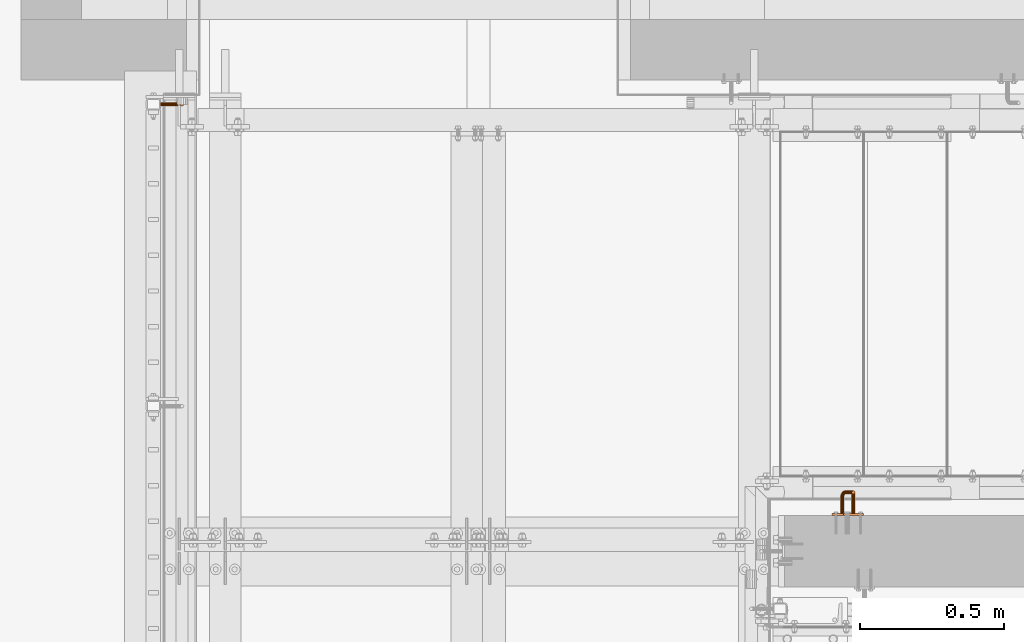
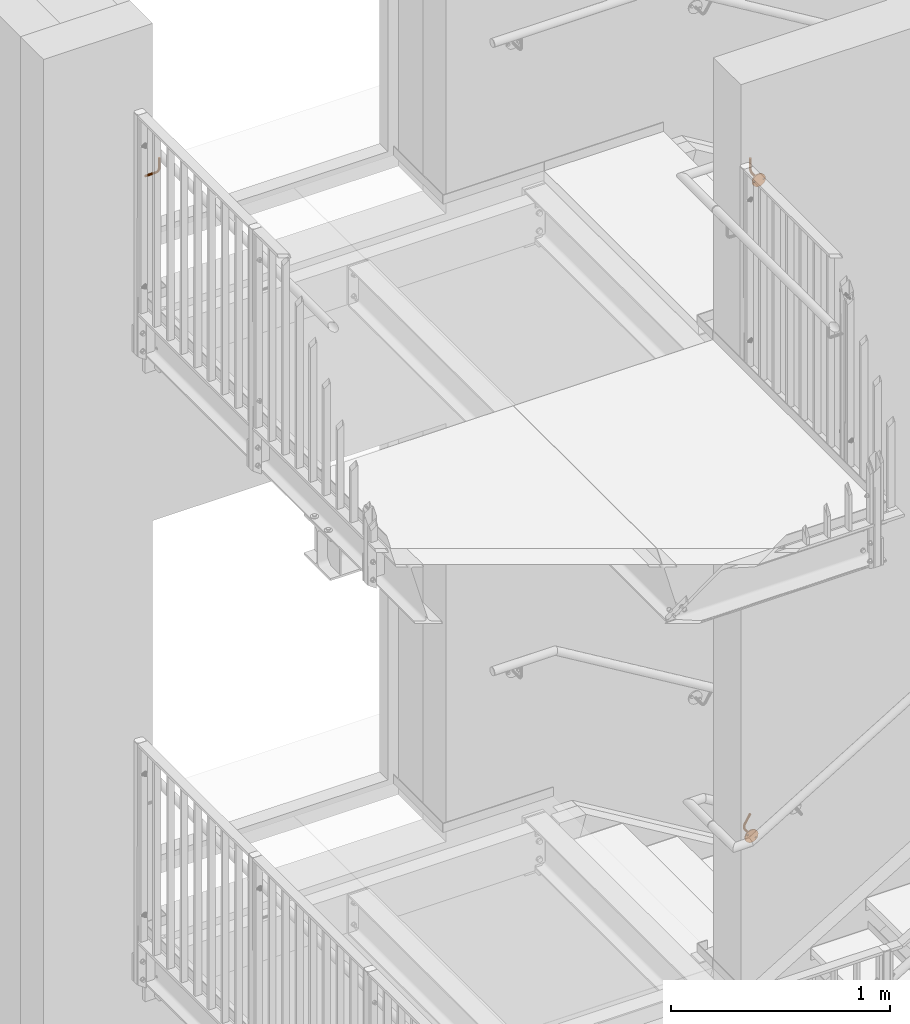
# One storey, part 377 of 410: 3 proxies.
"""IFC2X3 building model written with IfcOpenShell, lengths in millimetres."""

from ifc_helpers import new_model, entity, si_unit, converted_unit, origin_with_axes, place, context, project, spatial, faceted_brep, element, save


model = new_model("IFC2X3")

# Units and contexts
model_context = context("Model", 3, precision=1e-09, world=origin_with_axes())
ifc_project = project(units=[si_unit("LENGTHUNIT", "METRE", prefix="MILLI"), si_unit("AREAUNIT", "SQUARE_METRE"), si_unit("VOLUMEUNIT", "CUBIC_METRE"), converted_unit("PLANEANGLEUNIT", "DEGREE", entity("IfcPlaneAngleMeasure", 0.01745329), si_unit("PLANEANGLEUNIT", "RADIAN"), dimensions=[0, 0, 0, 0, 0, 0, 0])], contexts=[model_context])

# Site, building, storey
site_placement = place(None, origin_with_axes())
site = spatial("IfcSite", under=ifc_project, at=site_placement, Name="mKR Teilneubau & Sanierung BA1 - Ostfildern", CompositionType="ELEMENT")
building_placement = place(site_placement, origin_with_axes())
building = spatial("IfcBuilding", under=site, at=building_placement, Name="Struktur 1", CompositionType="ELEMENT")
storey_placement = place(building_placement, origin_with_axes())
storey = spatial("IfcBuildingStorey", under=building, at=storey_placement, Name="Default Storey", CompositionType="ELEMENT", Elevation=0.0)

# Proxies
proxy_1_placement = place(None, origin_with_axes())
element("IfcBuildingElementProxy", 1, at=proxy_1_placement, inside=storey, ObjectType="-", context=model_context, shape_type="Brep", body=[
    faceted_brep([(-3817.9485317, 18534.999999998, 8238.6), (-3874.9485317, 18534.999999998, 8238.6), (-3874.9485317, 18531.999999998, 8237.796152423), (-3817.9485317, 18531.999999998, 8237.796152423), (-3874.9485317, 18540.19615242, 8229.6), (-3874.9485317, 18537.999999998, 8227.403847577), (-3874.9485317, 18534.999999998, 8226.6), (-3874.9485317, 18531.999999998, 8227.403847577), (-3874.9485317, 18529.803847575, 8229.6), (-3874.9485317, 18528.999999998, 8232.6), (-3874.9485317, 18529.803847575, 8235.6), (-3874.9485317, 18537.999999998, 8237.796152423), (-3874.9485317, 18540.19615242, 8235.6), (-3874.9485317, 18540.999999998, 8232.6), (-3817.9485317, 18537.999999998, 8237.796152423), (-3813.048711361, 18531.999999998, 8238.770787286), (-3813.356330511, 18534.999999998, 8239.51344561), (-3817.9485317, 18529.803847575, 8235.6), (-3813.048711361, 18537.999999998, 8238.770787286), (-3809.463250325, 18534.999999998, 8242.114718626), (-3808.894844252, 18537.999999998, 8241.546312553), (-3808.894844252, 18531.999999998, 8241.546312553), (-3812.208280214, 18529.803847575, 8236.741807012), (-3817.9485317, 18540.19615242, 8235.6), (-3806.861977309, 18534.999999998, 8246.007798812), (-3806.119318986, 18537.999999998, 8245.700179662), (-3805.144684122, 18537.999999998, 8250.6), (-3805.144684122, 18537.999999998, 8307.6), (-3802.9485317, 18540.19615242, 8307.6), (-3802.9485317, 18540.19615242, 8250.6), (-3805.9485317, 18534.999999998, 8250.6), (-3805.9485317, 18534.999999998, 8307.6), (-3817.9485317, 18528.999999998, 8232.6), (-3804.090338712, 18540.19615242, 8244.859748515), (-3812.208280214, 18540.19615242, 8236.741807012), (-3807.341929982, 18540.19615242, 8239.993398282), (-3796.9485317, 18529.803847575, 8307.6), (-3794.752379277, 18531.999999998, 8307.6), (-3793.9485317, 18534.999999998, 8307.6), (-3794.752379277, 18537.999999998, 8307.6), (-3796.9485317, 18540.19615242, 8307.6), (-3799.9485317, 18540.999999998, 8307.6), (-3805.144684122, 18531.999999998, 8307.6), (-3802.9485317, 18529.803847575, 8307.6), (-3799.9485317, 18528.999999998, 8307.6), (-3806.119318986, 18531.999999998, 8245.700179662), (-3811.060229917, 18528.999999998, 8233.970168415), (-3807.341929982, 18529.803847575, 8239.993398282), (-3817.9485317, 18540.999999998, 8232.6), (-3799.9485317, 18540.999999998, 8250.6), (-3805.144684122, 18531.999999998, 8250.6), (-3817.9485317, 18529.803847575, 8229.6), (-3801.318700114, 18540.999999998, 8243.711698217), (-3811.060229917, 18540.999999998, 8233.970168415), (-3805.220609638, 18540.999999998, 8237.872077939), (-3804.090338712, 18529.803847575, 8244.859748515), (-3809.91217962, 18529.803847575, 8231.198529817), (-3805.220609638, 18528.999999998, 8237.872077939), (-3817.9485317, 18531.999999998, 8227.403847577), (-3817.9485317, 18534.999999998, 8226.6), (-3817.9485317, 18537.999999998, 8227.403847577), (-3817.9485317, 18540.19615242, 8229.6), (-3796.9485317, 18540.19615242, 8250.6), (-3802.9485317, 18529.803847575, 8250.6), (-3798.547061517, 18540.19615242, 8242.56364792), (-3809.91217962, 18540.19615242, 8231.198529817), (-3803.099289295, 18540.19615242, 8235.750757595), (-3801.318700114, 18528.999999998, 8243.711698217), (-3809.071748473, 18531.999999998, 8229.169549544), (-3803.099289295, 18529.803847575, 8235.750757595), (-3808.764129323, 18534.999999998, 8228.42689122), (-3809.071748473, 18537.999999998, 8229.169549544), (-3794.752379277, 18537.999999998, 8250.6), (-3799.9485317, 18528.999999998, 8250.6), (-3796.518081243, 18537.999999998, 8241.723216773), (-3801.546375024, 18537.999999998, 8234.197843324), (-3798.547061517, 18529.803847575, 8242.56364792), (-3801.546375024, 18531.999999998, 8234.197843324), (-3793.9485317, 18534.999999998, 8250.6), (-3800.977968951, 18534.999999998, 8233.629437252), (-3796.9485317, 18529.803847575, 8250.6), (-3795.775422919, 18534.999999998, 8241.415597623), (-3796.518081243, 18531.999999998, 8241.723216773), (-3794.752379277, 18531.999999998, 8250.6)], [[[0, 1, 2, 3]], [[4, 5, 6, 7, 8, 9, 10, 2, 1, 11, 12, 13]], [[1, 0, 14, 11]], [[0, 3, 15, 16]], [[3, 2, 10, 17]], [[16, 18, 14, 0]], [[19, 20, 18, 16]], [[16, 15, 21, 19]], [[3, 17, 22, 15]], [[11, 14, 23, 12]], [[20, 19, 24, 25]], [[26, 27, 28, 29]], [[27, 26, 30, 31]], [[17, 10, 9, 32]], [[26, 29, 33, 25]], [[18, 34, 23, 14]], [[20, 35, 34, 18]], [[25, 33, 35, 20]], [[36, 37, 38, 39, 40, 41, 28, 27, 31, 42, 43, 44]], [[25, 24, 30, 26]], [[19, 21, 45, 24]], [[17, 32, 46, 22]], [[15, 22, 47, 21]], [[12, 23, 48, 13]], [[29, 28, 41, 49]], [[31, 30, 50, 42]], [[32, 9, 8, 51]], [[29, 49, 52, 33]], [[34, 53, 48, 23]], [[35, 54, 53, 34]], [[33, 52, 54, 35]], [[24, 45, 50, 30]], [[21, 47, 55, 45]], [[32, 51, 56, 46]], [[22, 46, 57, 47]], [[7, 58, 51, 8]], [[6, 59, 58, 7]], [[5, 60, 59, 6]], [[4, 61, 60, 5]], [[13, 48, 61, 4]], [[49, 41, 40, 62]], [[42, 50, 63, 43]], [[49, 62, 64, 52]], [[53, 65, 61, 48]], [[54, 66, 65, 53]], [[52, 64, 66, 54]], [[45, 55, 63, 50]], [[47, 57, 67, 55]], [[51, 58, 68, 56]], [[46, 56, 69, 57]], [[58, 59, 70, 68]], [[59, 60, 71, 70]], [[60, 61, 65, 71]], [[62, 40, 39, 72]], [[43, 63, 73, 44]], [[62, 72, 74, 64]], [[66, 75, 71, 65]], [[64, 74, 75, 66]], [[55, 67, 73, 63]], [[57, 69, 76, 67]], [[56, 68, 77, 69]], [[72, 39, 38, 78]], [[68, 70, 79, 77]], [[70, 71, 75, 79]], [[44, 73, 80, 36]], [[72, 78, 81, 74]], [[74, 81, 79, 75]], [[67, 76, 80, 73]], [[69, 77, 82, 76]], [[78, 38, 37, 83]], [[77, 79, 81, 82]], [[36, 80, 83, 37]], [[78, 83, 82, 81]], [[76, 82, 83, 80]]]),
])
proxy_2_placement = place(None, origin_with_axes())
element("IfcBuildingElementProxy", 2, at=proxy_2_placement, inside=storey, ObjectType="-", context=model_context, shape_type="Brep", body=[
    faceted_brep([(-1493.680607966, 17111.0, 8234.72389397), (-1493.680607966, 17105.0, 8234.72389397), (-1494.25, 17105.0, 8232.59889397), (-1494.25, 17111.0, 8232.59889397), (-1456.40800795, 17111.0, 8266.527903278), (-1445.856814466, 17111.0, 8261.899720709), (-1437.380082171, 17111.0, 8254.096338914), (-1431.896396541, 17111.0, 8243.963375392), (-1430.0, 17111.0, 8232.59889397), (-1431.896396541, 17111.0, 8221.234412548), (-1437.380082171, 17111.0, 8211.101449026), (-1445.856814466, 17111.0, 8203.298067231), (-1456.40800795, 17111.0, 8198.669884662), (-1467.890277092, 17111.0, 8197.718436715), (-1479.059339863, 17111.0, 8200.546827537), (-1488.704855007, 17111.0, 8206.848557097), (-1495.781581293, 17111.0, 8215.940735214), (-1499.522645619, 17111.0, 8226.83808331), (-1499.522645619, 17111.0, 8238.35970463), (-1495.781581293, 17111.0, 8249.257052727), (-1488.704855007, 17111.0, 8258.349230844), (-1479.059339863, 17111.0, 8264.650960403), (-1467.890277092, 17111.0, 8267.479351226), (-1493.680607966, 17111.0, 8230.47389397), (-1492.125, 17111.0, 8228.918286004), (-1490.0, 17111.0, 8228.34889397), (-1487.875, 17111.0, 8228.918286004), (-1486.319392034, 17111.0, 8230.47389397), (-1485.75, 17111.0, 8232.59889397), (-1486.319392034, 17111.0, 8234.72389397), (-1487.875, 17111.0, 8236.279501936), (-1490.0, 17111.0, 8236.84889397), (-1492.125, 17111.0, 8236.279501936), (-1443.680607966, 17111.0, 8234.72389397), (-1444.25, 17111.0, 8232.59889397), (-1443.680607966, 17111.0, 8230.47389397), (-1442.125, 17111.0, 8228.918286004), (-1440.0, 17111.0, 8228.34889397), (-1437.875, 17111.0, 8228.918286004), (-1436.319392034, 17111.0, 8230.47389397), (-1435.75, 17111.0, 8232.59889397), (-1436.319392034, 17111.0, 8234.72389397), (-1437.875, 17111.0, 8236.279501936), (-1440.0, 17111.0, 8236.84889397), (-1442.125, 17111.0, 8236.279501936), (-1492.125, 17105.0, 8236.279501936), (-1456.40800795, 17105.0, 8198.669884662), (-1445.856814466, 17105.0, 8203.298067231), (-1437.380082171, 17105.0, 8211.101449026), (-1431.896396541, 17105.0, 8221.234412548), (-1430.0, 17105.0, 8232.59889397), (-1431.896396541, 17105.0, 8243.963375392), (-1437.380082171, 17105.0, 8254.096338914), (-1445.856814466, 17105.0, 8261.899720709), (-1456.40800795, 17105.0, 8266.527903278), (-1467.890277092, 17105.0, 8267.479351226), (-1479.059339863, 17105.0, 8264.650960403), (-1488.704855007, 17105.0, 8258.349230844), (-1495.781581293, 17105.0, 8249.257052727), (-1499.522645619, 17105.0, 8238.35970463), (-1499.522645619, 17105.0, 8226.83808331), (-1495.781581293, 17105.0, 8215.940735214), (-1488.704855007, 17105.0, 8206.848557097), (-1479.059339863, 17105.0, 8200.546827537), (-1467.890277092, 17105.0, 8197.718436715), (-1443.680607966, 17105.0, 8230.47389397), (-1444.25, 17105.0, 8232.59889397), (-1443.680607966, 17105.0, 8234.72389397), (-1442.125, 17105.0, 8236.279501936), (-1440.0, 17105.0, 8236.84889397), (-1437.875, 17105.0, 8236.279501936), (-1436.319392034, 17105.0, 8234.72389397), (-1435.75, 17105.0, 8232.59889397), (-1436.319392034, 17105.0, 8230.47389397), (-1437.875, 17105.0, 8228.918286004), (-1440.0, 17105.0, 8228.34889397), (-1442.125, 17105.0, 8228.918286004), (-1490.0, 17105.0, 8236.84889397), (-1487.875, 17105.0, 8236.279501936), (-1486.319392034, 17105.0, 8234.72389397), (-1485.75, 17105.0, 8232.59889397), (-1486.319392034, 17105.0, 8230.47389397), (-1487.875, 17105.0, 8228.918286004), (-1490.0, 17105.0, 8228.34889397), (-1492.125, 17105.0, 8228.918286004), (-1493.680607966, 17105.0, 8230.47389397)], [[[0, 1, 2, 3]], [[4, 5, 6, 7, 8, 9, 10, 11, 12, 13, 14, 15, 16, 17, 18, 19, 20, 21, 22], [3, 23, 24, 25, 26, 27, 28, 29, 30, 31, 32, 0], [33, 34, 35, 36, 37, 38, 39, 40, 41, 42, 43, 44]], [[1, 0, 32, 45]], [[46, 47, 48, 49, 50, 51, 52, 53, 54, 55, 56, 57, 58, 59, 60, 61, 62, 63, 64], [65, 66, 67, 68, 69, 70, 71, 72, 73, 74, 75, 76], [1, 45, 77, 78, 79, 80, 81, 82, 83, 84, 85, 2]], [[3, 2, 85, 23]], [[59, 18, 17, 60]], [[23, 85, 84, 24]], [[45, 32, 31, 77]], [[18, 59, 58, 19]], [[24, 84, 83, 25]], [[60, 17, 16, 61]], [[77, 31, 30, 78]], [[57, 20, 19, 58]], [[25, 83, 82, 26]], [[20, 57, 56, 21]], [[15, 62, 61, 16]], [[78, 30, 29, 79]], [[62, 15, 14, 63]], [[26, 82, 81, 27]], [[79, 29, 28, 80]], [[21, 56, 55, 22]], [[27, 81, 80, 28]], [[63, 14, 13, 64]], [[22, 55, 54, 4]], [[66, 34, 33, 67]], [[64, 13, 12, 46]], [[34, 66, 65, 35]], [[67, 33, 44, 68]], [[4, 54, 53, 5]], [[46, 12, 11, 47]], [[35, 65, 76, 36]], [[68, 44, 43, 69]], [[5, 53, 52, 6]], [[47, 11, 10, 48]], [[36, 76, 75, 37]], [[69, 43, 42, 70]], [[6, 52, 51, 7]], [[48, 10, 9, 49]], [[37, 75, 74, 38]], [[50, 8, 7, 51]], [[70, 42, 41, 71]], [[8, 50, 49, 9]], [[38, 74, 73, 39]], [[71, 41, 40, 72]], [[39, 73, 72, 40]]]),
    faceted_brep([(-1459.0, 17111.0, 8232.59889397), (-1459.0, 17167.0, 8232.59889397), (-1459.803847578, 17167.0, 8235.59889397), (-1459.803847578, 17111.0, 8235.59889397), (-1459.803847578, 17188.0, 8307.59889397), (-1459.803847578, 17188.0, 8250.59889397), (-1462.0, 17190.196152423, 8250.59889397), (-1462.0, 17190.196152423, 8307.59889397), (-1459.0, 17185.0, 8307.59889397), (-1459.0, 17185.0, 8250.59889397), (-1459.803847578, 17186.401470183, 8242.562541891), (-1462.0, 17188.430450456, 8241.722110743), (-1470.196152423, 17111.0, 8229.59889397), (-1468.0, 17111.0, 8227.402741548), (-1465.0, 17111.0, 8226.59889397), (-1462.0, 17111.0, 8227.402741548), (-1459.803847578, 17111.0, 8229.59889397), (-1462.0, 17111.0, 8237.795046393), (-1465.0, 17111.0, 8238.59889397), (-1468.0, 17111.0, 8237.795046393), (-1470.196152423, 17111.0, 8235.59889397), (-1471.0, 17111.0, 8232.59889397), (-1459.803847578, 17167.0, 8229.59889397), (-1459.0, 17173.888301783, 8233.969062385), (-1459.803847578, 17172.740251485, 8236.740700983), (-1470.196152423, 17182.0, 8307.59889397), (-1468.0, 17179.803847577, 8307.59889397), (-1465.0, 17179.0, 8307.59889397), (-1462.0, 17179.803847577, 8307.59889397), (-1459.803847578, 17182.0, 8307.59889397), (-1465.0, 17191.0, 8307.59889397), (-1468.0, 17190.196152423, 8307.59889397), (-1470.196152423, 17188.0, 8307.59889397), (-1471.0, 17185.0, 8307.59889397), (-1459.0, 17183.629831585, 8243.710592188), (-1459.0, 17179.727922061, 8237.870971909), (-1459.803847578, 17181.849242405, 8235.749651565), (-1462.0, 17167.0, 8237.795046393), (-1459.803847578, 17175.03635208, 8231.197423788), (-1465.0, 17191.0, 8250.59889397), (-1459.803847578, 17182.0, 8250.59889397), (-1465.0, 17189.17310878, 8241.414491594), (-1462.0, 17183.402156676, 8234.196737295), (-1459.803847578, 17177.606601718, 8239.992292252), (-1462.0, 17171.899820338, 8238.769681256), (-1462.0, 17167.0, 8227.402741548), (-1459.803847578, 17180.858192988, 8244.858642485), (-1465.0, 17167.0, 8238.59889397), (-1462.0, 17175.876783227, 8229.168443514), (-1468.0, 17190.196152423, 8250.59889397), (-1462.0, 17179.803847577, 8250.59889397), (-1468.0, 17188.430450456, 8241.722110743), (-1465.0, 17183.970562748, 8233.628331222), (-1462.0, 17176.053687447, 8241.545206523), (-1465.0, 17171.592201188, 8239.51233958), (-1465.0, 17167.0, 8226.59889397), (-1462.0, 17178.829212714, 8245.699073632), (-1470.196152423, 17188.0, 8250.59889397), (-1468.0, 17167.0, 8237.795046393), (-1465.0, 17176.184402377, 8228.42578519), (-1465.0, 17179.0, 8250.59889397), (-1470.196152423, 17186.401470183, 8242.562541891), (-1468.0, 17183.402156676, 8234.196737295), (-1465.0, 17175.485281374, 8242.113612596), (-1468.0, 17171.899820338, 8238.769681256), (-1468.0, 17167.0, 8227.402741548), (-1465.0, 17178.08655439, 8246.006692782), (-1471.0, 17185.0, 8250.59889397), (-1470.196152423, 17167.0, 8235.59889397), (-1468.0, 17175.876783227, 8229.168443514), (-1468.0, 17179.803847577, 8250.59889397), (-1470.196152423, 17182.0, 8250.59889397), (-1471.0, 17183.629831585, 8243.710592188), (-1470.196152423, 17181.849242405, 8235.749651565), (-1468.0, 17176.053687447, 8241.545206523), (-1470.196152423, 17172.740251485, 8236.740700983), (-1471.0, 17167.0, 8232.59889397), (-1470.196152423, 17167.0, 8229.59889397), (-1468.0, 17178.829212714, 8245.699073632), (-1470.196152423, 17175.03635208, 8231.197423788), (-1470.196152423, 17180.858192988, 8244.858642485), (-1471.0, 17179.727922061, 8237.870971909), (-1471.0, 17173.888301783, 8233.969062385), (-1470.196152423, 17177.606601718, 8239.992292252)], [[[0, 1, 2, 3]], [[4, 5, 6, 7]], [[5, 4, 8, 9]], [[6, 5, 10, 11]], [[12, 13, 14, 15, 16, 0, 3, 17, 18, 19, 20, 21]], [[1, 0, 16, 22]], [[2, 1, 23, 24]], [[25, 26, 27, 28, 29, 8, 4, 7, 30, 31, 32, 33]], [[34, 10, 5, 9]], [[35, 36, 10, 34]], [[3, 2, 37, 17]], [[38, 23, 1, 22]], [[36, 35, 23, 38]], [[7, 6, 39, 30]], [[9, 8, 29, 40]], [[39, 6, 11, 41]], [[11, 10, 36, 42]], [[24, 23, 35, 43]], [[37, 2, 24, 44]], [[22, 16, 15, 45]], [[43, 35, 34, 46]], [[46, 34, 9, 40]], [[17, 37, 47, 18]], [[48, 38, 22, 45]], [[42, 36, 38, 48]], [[30, 39, 49, 31]], [[40, 29, 28, 50]], [[49, 39, 41, 51]], [[41, 11, 42, 52]], [[44, 24, 43, 53]], [[47, 37, 44, 54]], [[45, 15, 14, 55]], [[53, 43, 46, 56]], [[56, 46, 40, 50]], [[31, 49, 57, 32]], [[18, 47, 58, 19]], [[59, 48, 45, 55]], [[52, 42, 48, 59]], [[50, 28, 27, 60]], [[57, 49, 51, 61]], [[51, 41, 52, 62]], [[54, 44, 53, 63]], [[58, 47, 54, 64]], [[55, 14, 13, 65]], [[66, 56, 50, 60]], [[63, 53, 56, 66]], [[32, 57, 67, 33]], [[19, 58, 68, 20]], [[69, 59, 55, 65]], [[62, 52, 59, 69]], [[60, 27, 26, 70]], [[71, 25, 33, 67]], [[70, 26, 25, 71]], [[67, 57, 61, 72]], [[61, 51, 62, 73]], [[64, 54, 63, 74]], [[68, 58, 64, 75]], [[76, 21, 20, 68]], [[77, 12, 21, 76]], [[65, 13, 12, 77]], [[78, 66, 60, 70]], [[74, 63, 66, 78]], [[79, 69, 65, 77]], [[73, 62, 69, 79]], [[71, 67, 72, 80]], [[70, 71, 80, 78]], [[72, 61, 73, 81]], [[76, 68, 75, 82]], [[75, 64, 74, 83]], [[77, 76, 82, 79]], [[83, 74, 78, 80]], [[81, 73, 79, 82]], [[80, 72, 81, 83]], [[82, 75, 83, 81]]]),
])
proxy_3_placement = place(None, origin_with_axes())
element("IfcBuildingElementProxy", 3, at=proxy_3_placement, inside=storey, ObjectType="-", context=model_context, shape_type="Brep", body=[
    faceted_brep([(-1527.076769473, 17111.0, 4608.884596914), (-1527.076769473, 17105.0, 4608.884596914), (-1528.657985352, 17105.0, 4607.355025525), (-1528.657985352, 17111.0, 4607.355025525), (-1478.754537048, 17111.0, 4616.990370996), (-1472.086071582, 17111.0, 4607.594663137), (-1468.829703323, 17111.0, 4596.54279345), (-1469.338310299, 17111.0, 4585.032403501), (-1473.556777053, 17111.0, 4574.310822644), (-1481.027967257, 17111.0, 4565.539900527), (-1490.942261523, 17111.0, 4559.670102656), (-1502.225292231, 17111.0, 4557.337512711), (-1513.654367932, 17111.0, 4558.794903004), (-1523.990970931, 17111.0, 4563.884342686), (-1532.114969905, 17111.0, 4572.054311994), (-1537.146003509, 17111.0, 4582.419467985), (-1538.538881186, 17111.0, 4593.856585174), (-1536.142663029, 17111.0, 4605.12627445), (-1530.217016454, 17111.0, 4615.007290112), (-1521.404077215, 17111.0, 4622.428870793), (-1510.658864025, 17111.0, 4626.586773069), (-1499.145787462, 17111.0, 4627.030423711), (-1488.112468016, 17111.0, 4623.711746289), (-1484.196451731, 17111.0, 4583.169263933), (-1485.77766761, 17111.0, 4581.639692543), (-1486.382255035, 17111.0, 4579.524436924), (-1485.848215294, 17111.0, 4577.39027811), (-1484.318643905, 17111.0, 4575.809062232), (-1482.203388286, 17111.0, 4575.204474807), (-1480.069229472, 17111.0, 4575.738514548), (-1478.488013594, 17111.0, 4577.268085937), (-1477.883426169, 17111.0, 4579.383341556), (-1478.417465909, 17111.0, 4581.51750037), (-1479.947037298, 17111.0, 4583.098716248), (-1482.062292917, 17111.0, 4583.703303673), (-1529.262572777, 17111.0, 4605.239769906), (-1528.728533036, 17111.0, 4603.105611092), (-1527.198961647, 17111.0, 4601.524395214), (-1525.083706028, 17111.0, 4600.919807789), (-1522.949547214, 17111.0, 4601.453847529), (-1521.368331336, 17111.0, 4602.983418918), (-1520.76374391, 17111.0, 4605.098674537), (-1521.297783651, 17111.0, 4607.232833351), (-1522.82735504, 17111.0, 4608.81404923), (-1524.942610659, 17111.0, 4609.418636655), (-1524.942610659, 17105.0, 4609.418636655), (-1513.654367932, 17105.0, 4558.794903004), (-1502.225292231, 17105.0, 4557.337512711), (-1490.942261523, 17105.0, 4559.670102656), (-1481.027967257, 17105.0, 4565.539900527), (-1473.556777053, 17105.0, 4574.310822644), (-1469.338310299, 17105.0, 4585.032403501), (-1468.829703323, 17105.0, 4596.54279345), (-1472.086071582, 17105.0, 4607.594663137), (-1478.754537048, 17105.0, 4616.990370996), (-1488.112468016, 17105.0, 4623.711746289), (-1499.145787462, 17105.0, 4627.030423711), (-1510.658864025, 17105.0, 4626.586773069), (-1521.404077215, 17105.0, 4622.428870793), (-1530.217016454, 17105.0, 4615.007290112), (-1536.142663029, 17105.0, 4605.12627445), (-1538.538881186, 17105.0, 4593.856585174), (-1537.146003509, 17105.0, 4582.419467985), (-1532.114969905, 17105.0, 4572.054311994), (-1523.990970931, 17105.0, 4563.884342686), (-1486.382255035, 17105.0, 4579.524436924), (-1485.77766761, 17105.0, 4581.639692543), (-1484.196451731, 17105.0, 4583.169263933), (-1482.062292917, 17105.0, 4583.703303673), (-1479.947037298, 17105.0, 4583.098716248), (-1478.417465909, 17105.0, 4581.51750037), (-1477.883426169, 17105.0, 4579.383341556), (-1478.488013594, 17105.0, 4577.268085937), (-1480.069229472, 17105.0, 4575.738514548), (-1482.203388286, 17105.0, 4575.204474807), (-1484.318643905, 17105.0, 4575.809062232), (-1485.848215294, 17105.0, 4577.39027811), (-1522.82735504, 17105.0, 4608.81404923), (-1521.297783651, 17105.0, 4607.232833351), (-1520.76374391, 17105.0, 4605.098674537), (-1521.368331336, 17105.0, 4602.983418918), (-1522.949547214, 17105.0, 4601.453847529), (-1525.083706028, 17105.0, 4600.919807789), (-1527.198961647, 17105.0, 4601.524395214), (-1528.728533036, 17105.0, 4603.105611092), (-1529.262572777, 17105.0, 4605.239769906)], [[[0, 1, 2, 3]], [[4, 5, 6, 7, 8, 9, 10, 11, 12, 13, 14, 15, 16, 17, 18, 19, 20, 21, 22], [23, 24, 25, 26, 27, 28, 29, 30, 31, 32, 33, 34], [3, 35, 36, 37, 38, 39, 40, 41, 42, 43, 44, 0]], [[1, 0, 44, 45]], [[46, 47, 48, 49, 50, 51, 52, 53, 54, 55, 56, 57, 58, 59, 60, 61, 62, 63, 64], [65, 66, 67, 68, 69, 70, 71, 72, 73, 74, 75, 76], [1, 45, 77, 78, 79, 80, 81, 82, 83, 84, 85, 2]], [[3, 2, 85, 35]], [[59, 18, 17, 60]], [[35, 85, 84, 36]], [[45, 44, 43, 77]], [[18, 59, 58, 19]], [[36, 84, 83, 37]], [[60, 17, 16, 61]], [[77, 43, 42, 78]], [[57, 20, 19, 58]], [[37, 83, 82, 38]], [[20, 57, 56, 21]], [[15, 62, 61, 16]], [[78, 42, 41, 79]], [[62, 15, 14, 63]], [[38, 82, 81, 39]], [[79, 41, 40, 80]], [[21, 56, 55, 22]], [[39, 81, 80, 40]], [[63, 14, 13, 64]], [[22, 55, 54, 4]], [[66, 24, 23, 67]], [[64, 13, 12, 46]], [[24, 66, 65, 25]], [[67, 23, 34, 68]], [[4, 54, 53, 5]], [[46, 12, 11, 47]], [[25, 65, 76, 26]], [[68, 34, 33, 69]], [[5, 53, 52, 6]], [[47, 11, 10, 48]], [[26, 76, 75, 27]], [[69, 33, 32, 70]], [[6, 52, 51, 7]], [[48, 10, 9, 49]], [[27, 75, 74, 28]], [[50, 8, 7, 51]], [[70, 32, 31, 71]], [[8, 50, 49, 9]], [[28, 74, 73, 29]], [[71, 31, 30, 72]], [[29, 73, 72, 30]]]),
    faceted_brep([(-1498.427361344, 17111.0, 4589.225715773), (-1498.427361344, 17167.0, 4589.225715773), (-1497.573826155, 17167.0, 4592.211959), (-1497.573826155, 17111.0, 4592.211959), (-1460.543746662, 17188.0, 4653.959616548), (-1489.859226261, 17188.0, 4605.076054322), (-1491.742660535, 17190.196152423, 4606.205550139), (-1462.427180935, 17190.196152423, 4655.089112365), (-1459.854361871, 17185.0, 4653.546192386), (-1489.16984147, 17185.0, 4604.66263016), (-1493.992375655, 17186.401470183, 4598.184027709), (-1496.308049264, 17188.430450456, 4598.592764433), (-1509.57217279, 17111.0, 4592.411152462), (-1508.818234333, 17111.0, 4589.398222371), (-1506.658839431, 17111.0, 4587.165917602), (-1503.672596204, 17111.0, 4586.312382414), (-1500.659666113, 17111.0, 4587.066320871), (-1498.327764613, 17111.0, 4595.22488909), (-1500.487159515, 17111.0, 4597.45719386), (-1503.473402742, 17111.0, 4598.310729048), (-1506.486332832, 17111.0, 4597.556790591), (-1508.718637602, 17111.0, 4595.397395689), (-1500.659666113, 17167.0, 4587.066320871), (-1497.722674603, 17173.888301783, 4590.400780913), (-1496.986587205, 17172.740251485, 4593.19117995), (-1469.456253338, 17182.0, 4659.304448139), (-1467.572819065, 17179.803847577, 4658.174952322), (-1465.0, 17179.0, 4656.632032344), (-1462.427180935, 17179.803847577, 4655.089112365), (-1460.543746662, 17182.0, 4653.959616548), (-1465.0, 17191.0, 4656.632032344), (-1467.572819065, 17190.196152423, 4658.174952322), (-1469.456253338, 17188.0, 4659.304448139), (-1470.145638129, 17185.0, 4659.717872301), (-1492.712540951, 17183.629831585, 4598.755178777), (-1495.71589655, 17179.727922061, 4593.747083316), (-1497.49629052, 17181.849242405, 4592.341249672), (-1498.327764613, 17167.0, 4595.22488909), (-1499.837531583, 17175.03635208, 4588.437230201), (-1494.315479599, 17191.0, 4607.748470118), (-1489.859226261, 17182.0, 4605.076054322), (-1499.039078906, 17189.17310878, 4599.871868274), (-1500.178398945, 17183.402156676, 4592.138956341), (-1495.31427216, 17177.606601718, 4595.979765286), (-1497.826503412, 17171.899820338, 4596.060742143), (-1503.672596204, 17167.0, 4586.312382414), (-1492.811475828, 17180.858192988, 4600.15317817), (-1500.487159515, 17167.0, 4597.45719386), (-1502.764483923, 17175.876783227, 4587.826659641), (-1496.888298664, 17190.196152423, 4609.291390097), (-1491.742660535, 17179.803847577, 4606.205550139), (-1501.453687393, 17188.430450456, 4601.678604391), (-1503.043553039, 17183.970562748, 4593.19440766), (-1496.399032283, 17176.053687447, 4598.44105025), (-1500.017368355, 17171.592201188, 4598.24057062), (-1506.658839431, 17167.0, 4587.165917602), (-1494.262670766, 17178.829212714, 4602.003433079), (-1498.771732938, 17188.0, 4610.420885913), (-1503.473402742, 17167.0, 4598.310729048), (-1505.71925711, 17176.184402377, 4588.732671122), (-1494.315479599, 17179.0, 4607.748470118), (-1502.904882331, 17186.401470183, 4603.5288593), (-1505.324037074, 17183.402156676, 4595.224796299), (-1498.679516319, 17175.485281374, 4600.471438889), (-1502.972141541, 17171.899820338, 4599.146582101), (-1508.818234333, 17167.0, 4589.398222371), (-1496.677279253, 17178.08655439, 4603.810169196), (-1499.461117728, 17185.0, 4610.834310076), (-1506.486332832, 17167.0, 4597.556790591), (-1507.910122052, 17175.876783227, 4590.912499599), (-1496.888298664, 17179.803847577, 4609.291390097), (-1498.771732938, 17182.0, 4610.420885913), (-1503.003817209, 17183.629831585, 4604.926858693), (-1506.408797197, 17181.849242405, 4597.686081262), (-1501.544670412, 17176.053687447, 4601.526890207), (-1505.899093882, 17172.740251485, 4598.536011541), (-1508.718637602, 17167.0, 4595.397395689), (-1509.57217279, 17167.0, 4592.411152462), (-1499.408308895, 17178.829212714, 4605.089273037), (-1508.750038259, 17175.03635208, 4593.782061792), (-1501.723982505, 17180.858192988, 4605.498009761), (-1506.007172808, 17179.727922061, 4599.918763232), (-1508.013950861, 17173.888301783, 4596.572460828), (-1504.226778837, 17177.606601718, 4601.324596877)], [[[0, 1, 2, 3]], [[4, 5, 6, 7]], [[5, 4, 8, 9]], [[6, 5, 10, 11]], [[12, 13, 14, 15, 16, 0, 3, 17, 18, 19, 20, 21]], [[1, 0, 16, 22]], [[2, 1, 23, 24]], [[25, 26, 27, 28, 29, 8, 4, 7, 30, 31, 32, 33]], [[34, 10, 5, 9]], [[35, 36, 10, 34]], [[3, 2, 37, 17]], [[38, 23, 1, 22]], [[36, 35, 23, 38]], [[7, 6, 39, 30]], [[9, 8, 29, 40]], [[39, 6, 11, 41]], [[11, 10, 36, 42]], [[24, 23, 35, 43]], [[37, 2, 24, 44]], [[22, 16, 15, 45]], [[43, 35, 34, 46]], [[46, 34, 9, 40]], [[17, 37, 47, 18]], [[48, 38, 22, 45]], [[42, 36, 38, 48]], [[30, 39, 49, 31]], [[40, 29, 28, 50]], [[49, 39, 41, 51]], [[41, 11, 42, 52]], [[44, 24, 43, 53]], [[47, 37, 44, 54]], [[45, 15, 14, 55]], [[53, 43, 46, 56]], [[56, 46, 40, 50]], [[31, 49, 57, 32]], [[18, 47, 58, 19]], [[59, 48, 45, 55]], [[52, 42, 48, 59]], [[50, 28, 27, 60]], [[57, 49, 51, 61]], [[51, 41, 52, 62]], [[54, 44, 53, 63]], [[58, 47, 54, 64]], [[55, 14, 13, 65]], [[66, 56, 50, 60]], [[63, 53, 56, 66]], [[32, 57, 67, 33]], [[19, 58, 68, 20]], [[69, 59, 55, 65]], [[62, 52, 59, 69]], [[60, 27, 26, 70]], [[71, 25, 33, 67]], [[70, 26, 25, 71]], [[67, 57, 61, 72]], [[61, 51, 62, 73]], [[64, 54, 63, 74]], [[68, 58, 64, 75]], [[76, 21, 20, 68]], [[77, 12, 21, 76]], [[65, 13, 12, 77]], [[78, 66, 60, 70]], [[74, 63, 66, 78]], [[79, 69, 65, 77]], [[73, 62, 69, 79]], [[71, 67, 72, 80]], [[70, 71, 80, 78]], [[72, 61, 73, 81]], [[76, 68, 75, 82]], [[75, 64, 74, 83]], [[77, 76, 82, 79]], [[83, 74, 78, 80]], [[81, 73, 79, 82]], [[80, 72, 81, 83]], [[82, 75, 83, 81]]]),
])

save(model, "model.ifc")
